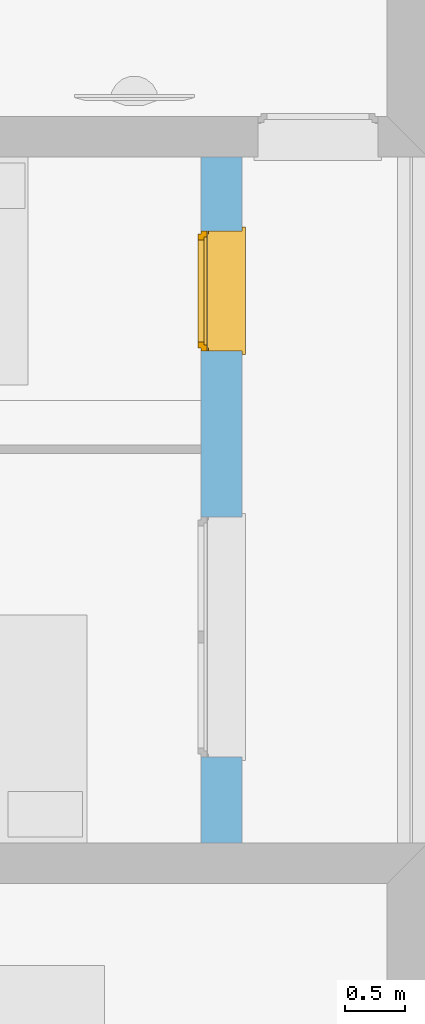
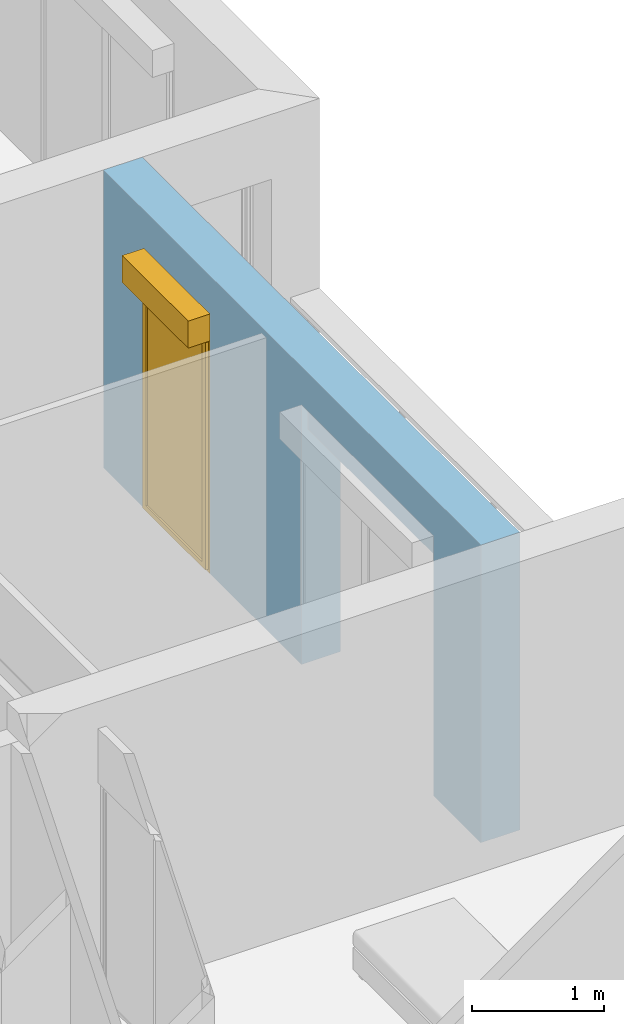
# One storey, part 37 of 164: 1 window, 2 openings, plus 1 element that does not belong to this part.
"""IFC2X3 building model written with IfcOpenShell, lengths in millimetres."""

from ifc_helpers import new_model, entity, si_unit, converted_unit, derived_unit, money_unit, direction, frame, origin_with_axes, place, context, subcontext, project, spatial, polyline, outline, extrude, open_shell, faceted_brep, surface_model, source, transform, mapped, material, layer, layer_set, layer_usage, type_object, element, fill, save


model = new_model("IFC2X3")

# Units and contexts
model_context = context("Model", 3, precision=0.01, world=origin_with_axes(), true_north=direction((0.0, 1.0)))
body_context = subcontext(model_context, "Body", "Model", "MODEL_VIEW")
ifc_project = project(units=[si_unit("LENGTHUNIT", "METRE", prefix="MILLI"), si_unit("AREAUNIT", "SQUARE_METRE"), si_unit("VOLUMEUNIT", "CUBIC_METRE"), converted_unit("PLANEANGLEUNIT", "DEGREE", entity("IfcPlaneAngleMeasure", 0.0174532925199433), si_unit("PLANEANGLEUNIT", "RADIAN"), dimensions=[0, 0, 0, 0, 0, 0, 0]), money_unit("USD"), converted_unit("TIMEUNIT", "Year", entity("IfcTimeMeasure", 31557600.0), si_unit("TIMEUNIT", "SECOND"), dimensions=[0, 0, 1, 0, 0, 0, 0]), si_unit("MASSUNIT", "GRAM", prefix="KILO"), si_unit("THERMODYNAMICTEMPERATUREUNIT", "DEGREE_CELSIUS"), si_unit("LUMINOUSINTENSITYUNIT", "LUMEN"), si_unit("ENERGYUNIT", "JOULE", prefix="MEGA"), derived_unit("THERMALCONDUCTANCEUNIT", [(si_unit("POWERUNIT", "WATT"), 1), (si_unit("LENGTHUNIT", "METRE"), -1), (si_unit("THERMODYNAMICTEMPERATUREUNIT", "KELVIN"), -1)]), derived_unit("SPECIFICHEATCAPACITYUNIT", [(si_unit("ENERGYUNIT", "JOULE"), 1), (si_unit("MASSUNIT", "GRAM", prefix="KILO"), -1), (si_unit("THERMODYNAMICTEMPERATUREUNIT", "KELVIN"), -1)]), derived_unit("MASSDENSITYUNIT", [(si_unit("MASSUNIT", "GRAM", prefix="KILO"), 1), (si_unit("VOLUMEUNIT", "CUBIC_METRE"), -1)])], contexts=[model_context])

# Site, building, storey
site_placement = place(None, origin_with_axes())
site = spatial("IfcSite", under=ifc_project, at=site_placement, Name="Site", CompositionType="ELEMENT")
building_placement = place(site_placement, origin_with_axes())
building = spatial("IfcBuilding", under=site, at=building_placement, Name="Bâtiment", CompositionType="ELEMENT")
storey_placement = place(building_placement, frame((0.0, 0.0, 5750.0), z_axis=(0.0, 0.0, 1.0), x_axis=(1.0, 0.0, 0.0)))
storey = spatial("IfcBuildingStorey", under=building, at=storey_placement, Name="Etage1", CompositionType="ELEMENT", Elevation=5750.0)

# Wall, openings, window
ifc_material_1 = material(Name="Parpaing 312445824")
ifc_layer_1 = layer(ifc_material_1, 180.0, ventilated="UNKNOWN")
ifc_material_2 = material(Name="Isolant styromousse 301821074")
ifc_layer_2 = layer(ifc_material_2, 160.0, ventilated="UNKNOWN")
ifc_layer_set = layer_set([ifc_layer_1, ifc_layer_2], Name="isol int 18+16 0018356637")
ifc_layer_usage = layer_usage(ifc_layer_set, "AXIS2", "POSITIVE", 0.0)
wall_type = type_object("IfcWallType", Name="isol int 18+16 0018356637 340", PredefinedType="NOTDEFINED")
wall_placement = place(storey_placement, frame((2232806.658098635, -646738.4413036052, 0.0), z_axis=(0.0, 0.0, 1.0), x_axis=(0.0, 1.0, 0.0)))
wall = element("IfcWallStandardCase", 1, at=wall_placement, inside=storey, type_object=wall_type, material=ifc_layer_usage, Name="Mur-144", context=body_context, shape_type="SweptSolid", body=[
    extrude(outline(polyline([(0.0, 0.0), (5713.115765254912, 0.0), (5713.115765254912, 340.0000000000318), (0.0, 340.0000000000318), (0.0, 0.0)])), origin_with_axes(), (0.0, 0.0, 1.0), 2750.0),
])
opening_1_placement = place(wall_placement, frame((4599.031209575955, 0.0, 0.0), z_axis=(0.0, 0.0, 1.0), x_axis=(1.0, 0.0, 0.0)))
opening_1 = element("IfcOpeningElement", 2, at=opening_1_placement, cuts=wall, Name="Fen-134", context=body_context, shape_type="Brep", body=[
    faceted_brep([(500.0, 290.0000000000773, 2150.0), (500.0, 280.0000000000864, 2150.0), (500.0, -0.9999999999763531, 2150.0), (500.0, -0.9999999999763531, 0.0), (500.0, 290.0000000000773, 0.0), (500.0, 341.0000000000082, 2150.0), (500.0, 530.0000000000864, 2150.0), (500.0, 530.0000000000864, 2400.0), (500.0, 280.0000000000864, 2400.0), (-500.0, 280.0000000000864, 2150.0), (-500.0, -0.9999999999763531, 2150.0), (-500.0, -0.9999999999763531, 0.0), (-500.0, 290.0000000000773, 0.0), (-500.0, 341.0000000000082, 0.0), (500.0, 341.0000000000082, 0.0), (-500.0, 341.0000000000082, 2150.0), (-500.0, 530.0000000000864, 2150.0), (-500.0, 530.0000000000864, 2400.0), (-500.0, 280.0000000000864, 2400.0), (-500.0, 290.0000000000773, 2150.0)], [[[0, 1, 2, 3, 4]], [[1, 0, 5, 6, 7, 8]], [[1, 9, 10, 2]], [[10, 11, 3, 2]], [[4, 3, 11, 12, 13, 14]], [[5, 0, 4, 14]], [[5, 15, 16, 6]], [[7, 6, 16, 17]], [[8, 7, 17, 18]], [[9, 1, 8, 18]], [[9, 19, 12, 11, 10]], [[19, 15, 13, 12]], [[15, 5, 14, 13]], [[19, 9, 18, 17, 16, 15]]]),
])
opening_2_placement = place(wall_placement, frame((1715.842808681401, 0.0, 0.0), z_axis=(0.0, 0.0, 1.0), x_axis=(1.0, 0.0, 0.0)))
element("IfcOpeningElement", 3, at=opening_2_placement, cuts=wall, Name="Fen-207", context=body_context, shape_type="Brep", body=[
    faceted_brep([(1000.0, 290.0000000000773, 2150.000000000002), (1000.0, 280.0000000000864, 2150.000000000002), (1000.0, -0.9999999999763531, 2150.000000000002), (1000.0, -0.9999999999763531, 0.0), (1000.0, 290.0000000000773, 0.0), (1000.0, 341.0000000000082, 2150.000000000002), (1000.0, 530.0000000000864, 2150.000000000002), (1000.0, 530.0000000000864, 2400.000000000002), (1000.0, 280.0000000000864, 2400.000000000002), (-1000.0, 280.0000000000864, 2150.000000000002), (-1000.0, -0.9999999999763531, 2150.000000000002), (-1000.0, -0.9999999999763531, 0.0), (-1000.0, 290.0000000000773, 0.0), (-1000.0, 341.0000000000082, 0.0), (1000.0, 341.0000000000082, 0.0), (-1000.0, 341.0000000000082, 2150.000000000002), (-1000.0, 530.0000000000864, 2150.000000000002), (-1000.0, 530.0000000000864, 2400.000000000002), (-1000.0, 280.0000000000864, 2400.000000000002), (-1000.0, 290.0000000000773, 2150.000000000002)], [[[0, 1, 2, 3, 4]], [[1, 0, 5, 6, 7, 8]], [[1, 9, 10, 2]], [[10, 11, 3, 2]], [[4, 3, 11, 12, 13, 14]], [[5, 0, 4, 14]], [[5, 15, 16, 6]], [[7, 6, 16, 17]], [[8, 7, 17, 18]], [[9, 1, 8, 18]], [[9, 19, 12, 11, 10]], [[19, 15, 13, 12]], [[15, 5, 14, 13]], [[19, 9, 18, 17, 16, 15]]]),
])
window_style = type_object("IfcWindowStyle", Name="Fenêtre 27", ConstructionType="NOTDEFINED", OperationType="SINGLE_PANEL", ParameterTakesPrecedence=False, Sizeable=False)
shared_shape = source(origin_with_axes(), body_context, "Body", "SurfaceModel", [
    surface_model("IfcShellBasedSurfaceModel", [(500.0, -51.00000000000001, 40.00000000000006), (500.0, -51.00000000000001, 50.00000000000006), (-500.0, -51.00000000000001, 50.0), (-500.0, -51.00000000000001, 40.0), (530.0, -369.9999999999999, 28.96551724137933), (530.0, -339.9999999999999, 30.00324289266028), (500.0, -339.9999999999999, 30.00324289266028), (-500.0, -339.9999999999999, 30.00324289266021), (-530.0, -339.9999999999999, 30.00324289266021), (-530.0, -369.9999999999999, 28.96551724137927), (530.0, -369.9999999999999, 8.96551724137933), (-530.0, -369.9999999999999, 8.965517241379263), (530.0, -359.9999999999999, 18.96551724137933), (-530.0, -359.9999999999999, 18.96551724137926)], [open_shell([[[0, 1, 2, 3]], [[4, 5, 6, 0, 3, 7, 8, 9]], [[10, 4, 9, 11]], [[12, 10, 11, 13]]])]),
    faceted_brep([(-500.0, -59.99999999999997, 2400.0), (-497.0, -59.99999999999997, 2400.0), (-497.0, 190.0, 2400.0), (-500.0, 190.0, 2400.0), (-500.0, -59.99999999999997, 2150.0), (-497.0, -59.99999999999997, 2150.0), (-497.0, 190.0, 2150.0), (-500.0, 190.0, 2150.0)], [[[0, 1, 2, 3]], [[4, 5, 1, 0]], [[1, 5, 6, 2]], [[3, 2, 6, 7]], [[0, 3, 7, 4]], [[7, 6, 5, 4]]]),
    faceted_brep([(497.0, -59.99999999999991, 2400.0), (500.0, -59.99999999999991, 2400.0), (500.0, 190.0000000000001, 2400.0), (497.0, 190.0000000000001, 2400.0), (497.0, -59.99999999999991, 2150.0), (500.0, -59.99999999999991, 2150.0), (500.0, 190.0000000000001, 2150.0), (497.0, 190.0000000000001, 2150.0)], [[[0, 1, 2, 3]], [[4, 5, 1, 0]], [[1, 5, 6, 2]], [[3, 2, 6, 7]], [[0, 3, 7, 4]], [[7, 6, 5, 4]]]),
    faceted_brep([(-497.0, -60.0, 2150.0), (497.0, -59.99999999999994, 2150.0), (497.0, -59.99999999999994, 2400.0), (-497.0, -60.0, 2400.0), (-497.0, -56.99999999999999, 2150.0), (497.0, -56.99999999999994, 2150.0), (497.0, -56.99999999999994, 2397.0), (497.0, 187.0000000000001, 2397.0), (497.0, 187.0000000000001, 2153.0), (497.0, -37.99999999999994, 2153.0), (497.0, -37.99999999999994, 2150.0), (497.0, 190.0000000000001, 2150.0), (497.0, 190.0000000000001, 2400.0), (-497.0, 190.0, 2400.0), (-497.0, 190.0, 2150.0), (-497.0, -37.99999999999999, 2150.0), (-497.0, -37.99999999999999, 2153.0), (-497.0, 187.0, 2153.0), (-497.0, 187.0, 2397.0), (-497.0, -56.99999999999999, 2397.0)], [[[0, 1, 2, 3]], [[4, 5, 1, 0]], [[1, 5, 6, 7, 8, 9, 10, 11, 12, 2]], [[3, 2, 12, 13]], [[0, 3, 13, 14, 15, 16, 17, 18, 19, 4]], [[19, 6, 5, 4]], [[18, 7, 6, 19]], [[17, 8, 7, 18]], [[16, 9, 8, 17]], [[15, 10, 9, 16]], [[14, 11, 10, 15]], [[13, 12, 11, 14]]]),
    faceted_brep([(-494.0, -40.37442957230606, 2256.419644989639), (-494.0, -41.99999999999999, 2275.0), (-494.0, -40.37442957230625, 2293.580355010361), (-494.0, -35.54711042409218, 2311.596155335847), (-494.0, -27.66471820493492, 2328.5), (-494.0, -16.96675541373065, 2343.77827423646), (-494.0, -3.778274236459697, 2356.96675541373), (-494.0, 11.5, 2367.664718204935), (-494.0, 28.40384466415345, 2375.547110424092), (-494.0, 46.41964498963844, 2380.374429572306), (-494.0, 64.99999999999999, 2382.0), (-494.0, 83.58035501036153, 2380.374429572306), (-494.0, 101.5961553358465, 2375.547110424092), (-494.0, 118.5, 2367.664718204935), (-494.0, 133.7782742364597, 2356.96675541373), (-494.0, 146.9667554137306, 2343.77827423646), (-494.0, 157.6647182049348, 2328.5), (-494.0, 165.5471104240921, 2311.596155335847), (-494.0, 170.3744295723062, 2293.580355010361), (-494.0, 171.9999999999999, 2275.0), (-494.0, 170.3744295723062, 2256.419644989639), (-494.0, 165.5471104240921, 2238.403844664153), (-494.0, 157.6647182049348, 2221.5), (-494.0, 146.9667554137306, 2206.22172576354), (-494.0, 133.7782742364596, 2193.033244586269), (-494.0, 118.4999999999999, 2182.335281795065), (-494.0, 101.5961553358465, 2174.452889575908), (-494.0, 83.58035501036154, 2169.625570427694), (-494.0, 65.00000000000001, 2168.0), (-494.0, 46.4196449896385, 2169.625570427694), (-494.0, 28.40384466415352, 2174.452889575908), (-494.0, 11.50000000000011, 2182.335281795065), (-494.0, -3.778274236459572, 2193.033244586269), (-494.0, -16.9667554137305, 2206.22172576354), (-494.0, -27.66471820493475, 2221.5), (-494.0, -35.54711042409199, 2238.403844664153), (494.0, -40.374429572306, 2256.419644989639), (494.0, -41.99999999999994, 2275.0), (494.0, -40.37442957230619, 2293.580355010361), (494.0, -35.54711042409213, 2311.596155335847), (494.0, -27.66471820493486, 2328.5), (494.0, -16.96675541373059, 2343.77827423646), (494.0, -3.778274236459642, 2356.96675541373), (494.0, 11.50000000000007, 2367.664718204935), (494.0, 28.40384466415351, 2375.547110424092), (494.0, 46.41964498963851, 2380.374429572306), (494.0, 65.00000000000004, 2382.0), (494.0, 83.58035501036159, 2380.374429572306), (494.0, 101.5961553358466, 2375.547110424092), (494.0, 118.5, 2367.664718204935), (494.0, 133.7782742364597, 2356.96675541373), (494.0, 146.9667554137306, 2343.77827423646), (494.0, 157.6647182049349, 2328.5), (494.0, 165.5471104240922, 2311.596155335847), (494.0, 170.3744295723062, 2293.580355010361), (494.0, 172.0, 2275.0), (494.0, 170.3744295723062, 2256.419644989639), (494.0, 165.5471104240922, 2238.403844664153), (494.0, 157.6647182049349, 2221.5), (494.0, 146.9667554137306, 2206.22172576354), (494.0, 133.7782742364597, 2193.033244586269), (494.0, 118.5, 2182.335281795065), (494.0, 101.5961553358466, 2174.452889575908), (494.0, 83.5803550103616, 2169.625570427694), (494.0, 65.00000000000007, 2168.0), (494.0, 46.41964498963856, 2169.625570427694), (494.0, 28.40384466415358, 2174.452889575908), (494.0, 11.50000000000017, 2182.335281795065), (494.0, -3.778274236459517, 2193.033244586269), (494.0, -16.96675541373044, 2206.22172576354), (494.0, -27.6647182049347, 2221.5), (494.0, -35.54711042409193, 2238.403844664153)], [[[0, 1, 2, 3, 4, 5, 6, 7, 8, 9, 10, 11, 12, 13, 14, 15, 16, 17, 18, 19, 20, 21, 22, 23, 24, 25, 26, 27, 28, 29, 30, 31, 32, 33, 34, 35]], [[0, 36, 37, 1]], [[1, 37, 38, 2]], [[2, 38, 39, 3]], [[3, 39, 40, 4]], [[4, 40, 41, 5]], [[5, 41, 42, 6]], [[6, 42, 43, 7]], [[7, 43, 44, 8]], [[8, 44, 45, 9]], [[9, 45, 46, 10]], [[10, 46, 47, 11]], [[11, 47, 48, 12]], [[12, 48, 49, 13]], [[13, 49, 50, 14]], [[14, 50, 51, 15]], [[15, 51, 52, 16]], [[16, 52, 53, 17]], [[17, 53, 54, 18]], [[18, 54, 55, 19]], [[19, 55, 56, 20]], [[20, 56, 57, 21]], [[21, 57, 58, 22]], [[22, 58, 59, 23]], [[23, 59, 60, 24]], [[24, 60, 61, 25]], [[25, 61, 62, 26]], [[26, 62, 63, 27]], [[27, 63, 64, 28]], [[28, 64, 65, 29]], [[29, 65, 66, 30]], [[30, 66, 67, 31]], [[31, 67, 68, 32]], [[32, 68, 69, 33]], [[33, 69, 70, 34]], [[34, 70, 71, 35]], [[35, 71, 36, 0]], [[36, 71, 70, 69, 68, 67, 66, 65, 64, 63, 62, 61, 60, 59, 58, 57, 56, 55, 54, 53, 52, 51, 50, 49, 48, 47, 46, 45, 44, 43, 42, 41, 40, 39, 38, 37]]]),
    faceted_brep([(500.0, -34.99999999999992, 30.0), (500.0, -34.99999999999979, 2150.0), (500.0, -59.99999999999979, 2150.0), (500.0, -59.99999999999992, 30.0), (475.0, -34.99999999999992, 30.0), (475.0, -34.99999999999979, 2150.0), (475.0, -37.99999999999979, 2150.0), (497.0, -37.99999999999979, 2150.0), (497.0, -56.99999999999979, 2150.0), (475.0, -56.99999999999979, 2150.0), (475.0, -59.99999999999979, 2150.0), (475.0, -59.99999999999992, 30.0), (475.0, -56.99999999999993, 30.0), (497.0, -56.99999999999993, 30.0), (497.0, -37.99999999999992, 30.0), (475.0, -37.99999999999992, 30.0)], [[[0, 1, 2, 3]], [[4, 5, 1, 0]], [[1, 5, 6, 7, 8, 9, 10, 2]], [[3, 2, 10, 11]], [[0, 3, 11, 12, 13, 14, 15, 4]], [[15, 6, 5, 4]], [[14, 7, 6, 15]], [[13, 8, 7, 14]], [[12, 9, 8, 13]], [[11, 10, 9, 12]]]),
    faceted_brep([(-500.0, -34.99999999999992, 30.0), (-500.0, -59.99999999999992, 30.0), (-500.0, -59.99999999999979, 2150.0), (-500.0, -34.99999999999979, 2150.0), (-475.0, -34.99999999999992, 30.0), (-475.0, -37.99999999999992, 30.0), (-497.0, -37.99999999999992, 30.0), (-497.0, -56.99999999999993, 30.0), (-475.0, -56.99999999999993, 30.0), (-475.0, -59.99999999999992, 30.0), (-475.0, -59.99999999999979, 2150.0), (-475.0, -56.99999999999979, 2150.0), (-497.0, -56.99999999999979, 2150.0), (-497.0, -37.99999999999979, 2150.0), (-475.0, -37.99999999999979, 2150.0), (-475.0, -34.99999999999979, 2150.0)], [[[0, 1, 2, 3]], [[0, 4, 5, 6, 7, 8, 9, 1]], [[1, 9, 10, 2]], [[3, 2, 10, 11, 12, 13, 14, 15]], [[4, 0, 3, 15]], [[5, 4, 15, 14]], [[6, 5, 14, 13]], [[7, 6, 13, 12]], [[8, 7, 12, 11]], [[9, 8, 11, 10]]]),
    faceted_brep([(497.0, -46.66666666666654, 2275.0), (497.0, -46.66666666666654, 2266.666666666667), (-497.0, -46.6666666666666, 2266.666666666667), (-497.0, -46.6666666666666, 2275.0), (497.0, -51.66666666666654, 2275.0), (497.0, -51.66666666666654, 2266.666666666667), (497.0, -49.99999999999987, 2250.0), (497.0, -44.99999999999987, 2250.0), (-497.0, -44.99999999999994, 2250.0), (-497.0, -49.99999999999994, 2250.0), (-497.0, -51.6666666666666, 2266.666666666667), (-497.0, -51.6666666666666, 2275.0)], [[[0, 1, 2, 3]], [[4, 5, 6, 7, 1, 0]], [[2, 1, 7, 8]], [[3, 2, 8, 9, 10, 11]], [[3, 11, 4, 0]], [[10, 5, 4, 11]], [[9, 6, 5, 10]], [[8, 7, 6, 9]]]),
    faceted_brep([(-497.0, -44.99999999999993, 2250.0), (497.0, -44.99999999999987, 2250.0), (497.0, -46.66666666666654, 2233.333333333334), (-497.0, -46.6666666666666, 2233.333333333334), (-497.0, -49.99999999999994, 2250.0), (497.0, -49.99999999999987, 2250.0), (497.0, -51.66666666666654, 2233.333333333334), (497.0, -51.66666666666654, 2216.666666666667), (497.0, -49.99999999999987, 2200.0), (497.0, -44.99999999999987, 2200.0), (497.0, -46.66666666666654, 2216.666666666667), (-497.0, -46.6666666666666, 2216.666666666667), (-497.0, -44.99999999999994, 2200.0), (-497.0, -49.99999999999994, 2200.0), (-497.0, -51.6666666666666, 2216.666666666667), (-497.0, -51.6666666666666, 2233.333333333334)], [[[0, 1, 2, 3]], [[4, 5, 1, 0]], [[1, 5, 6, 7, 8, 9, 10, 2]], [[3, 2, 10, 11]], [[0, 3, 11, 12, 13, 14, 15, 4]], [[15, 6, 5, 4]], [[14, 7, 6, 15]], [[13, 8, 7, 14]], [[12, 9, 8, 13]], [[11, 10, 9, 12]]]),
    faceted_brep([(-497.0, -44.99999999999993, 2200.0), (497.0, -44.99999999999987, 2200.0), (497.0, -46.66666666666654, 2183.333333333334), (-497.0, -46.6666666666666, 2183.333333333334), (-497.0, -49.99999999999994, 2200.0), (497.0, -49.99999999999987, 2200.0), (497.0, -51.66666666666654, 2183.333333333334), (497.0, -51.66666666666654, 2166.666666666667), (497.0, -49.99999999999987, 2150.000000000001), (497.0, -44.99999999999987, 2150.000000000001), (497.0, -46.66666666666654, 2166.666666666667), (-497.0, -46.6666666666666, 2166.666666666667), (-497.0, -44.99999999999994, 2150.000000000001), (-497.0, -49.99999999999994, 2150.000000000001), (-497.0, -51.6666666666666, 2166.666666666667), (-497.0, -51.6666666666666, 2183.333333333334)], [[[0, 1, 2, 3]], [[4, 5, 1, 0]], [[1, 5, 6, 7, 8, 9, 10, 2]], [[3, 2, 10, 11]], [[0, 3, 11, 12, 13, 14, 15, 4]], [[15, 6, 5, 4]], [[14, 7, 6, 15]], [[13, 8, 7, 14]], [[12, 9, 8, 13]], [[11, 10, 9, 12]]]),
    faceted_brep([(-475.0000000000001, 0.0, 2100.0), (-500.0, 0.0, 2100.0), (-500.0, -50.00000000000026, 2100.0), (-450.0, -50.00000000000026, 2100.0), (-450.0, -25.00000000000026, 2100.0), (-475.0000000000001, -25.00000000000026, 2100.0), (-475.0000000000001, 0.0, 50.00000000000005), (-500.0, 0.0, 50.00000000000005), (-500.0, -50.00000000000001, 50.00000000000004), (-450.0, -50.00000000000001, 50.00000000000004), (-450.0, -25.00000000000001, 50.00000000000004), (-475.0000000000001, -25.00000000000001, 50.00000000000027)], [[[0, 1, 2, 3, 4, 5]], [[6, 7, 1, 0]], [[1, 7, 8, 2]], [[2, 8, 9, 3]], [[4, 3, 9, 10]], [[10, 11, 5, 4]], [[5, 11, 6, 0]], [[11, 10, 9, 8, 7, 6]]]),
    faceted_brep([(450.0, -25.00000000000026, 2100.0), (450.0, -50.00000000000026, 2100.0), (500.0, -50.00000000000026, 2100.0), (500.0, 0.0, 2100.0), (475.0000000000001, 0.0, 2100.0), (475.0000000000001, -25.00000000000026, 2100.0), (450.0, -25.00000000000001, 50.00000000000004), (450.0, -50.00000000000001, 50.00000000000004), (500.0, -50.00000000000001, 50.00000000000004), (500.0, 0.0, 50.00000000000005), (475.0000000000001, 0.0, 50.00000000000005), (475.0000000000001, -25.00000000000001, 50.00000000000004)], [[[0, 1, 2, 3, 4, 5]], [[6, 7, 1, 0]], [[8, 2, 1, 7]], [[9, 3, 2, 8]], [[4, 3, 9, 10]], [[10, 11, 5, 4]], [[5, 11, 6, 0]], [[11, 10, 9, 8, 7, 6]]]),
    faceted_brep([(450.0, -25.00000000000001, 50.00000000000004), (450.0, -50.00000000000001, 50.00000000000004), (500.0, -50.00000000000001, 50.00000000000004), (500.0, 0.0, 50.00000000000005), (475.0000000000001, 0.0, 50.00000000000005), (475.0000000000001, -25.00000000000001, 50.00000000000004), (-450.0, -25.00000000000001, 50.00000000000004), (-450.0, -50.00000000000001, 50.00000000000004), (-500.0, -50.00000000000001, 50.00000000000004), (-500.0, -50.0, 0.0), (500.0, -50.0, 0.0), (500.0, 0.0, 0.0), (-475.0000000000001, 0.0, 24.99999999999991), (475.0000000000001, 0.0, 24.99999999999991), (-500.0, 0.0, 0.0), (-500.0, 0.0, 50.00000000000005), (-475.0000000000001, 0.0, 50.00000000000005), (475.0000000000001, -25.0, 24.99999999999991), (-475.0000000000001, -25.0, 24.99999999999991), (-475.0000000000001, -25.00000000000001, 50.00000000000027)], [[[0, 1, 2, 3, 4, 5]], [[6, 7, 1, 0]], [[8, 9, 10, 2, 1, 7]], [[11, 3, 2, 10]], [[12, 13, 4, 3, 11, 14, 15, 16]], [[13, 17, 5, 4]], [[5, 17, 18, 19, 6, 0]], [[19, 16, 15, 8, 7, 6]], [[15, 14, 9, 8]], [[14, 11, 10, 9]], [[12, 18, 17, 13]], [[19, 18, 12, 16]]]),
    faceted_brep([(-475.0000000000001, 0.0, 2100.0), (-500.0, 0.0, 2100.0), (-500.0, 0.0, 2150.0), (500.0, 0.0, 2150.0), (500.0, 0.0, 2100.0), (475.0000000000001, 0.0, 2100.0), (475.0000000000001, 0.0, 2125.0), (-475.0000000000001, 0.0, 2125.0), (-475.0000000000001, -25.00000000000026, 2100.0), (-450.0, -25.00000000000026, 2100.0), (-450.0, -50.00000000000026, 2100.0), (-500.0, -50.00000000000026, 2100.0), (-500.0, -50.00000000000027, 2150.0), (500.0, -50.00000000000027, 2150.0), (500.0, -50.00000000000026, 2100.0), (475.0000000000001, -25.00000000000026, 2100.0), (450.0, -50.00000000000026, 2100.0), (450.0, -25.00000000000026, 2100.0), (475.0000000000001, -25.00000000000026, 2125.0), (-475.0000000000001, -25.00000000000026, 2125.0)], [[[0, 1, 2, 3, 4, 5, 6, 7]], [[8, 9, 10, 11, 1, 0]], [[2, 1, 11, 12]], [[3, 2, 12, 13]], [[4, 3, 13, 14]], [[15, 5, 4, 14, 16, 17]], [[5, 15, 18, 6]], [[6, 18, 19, 7]], [[7, 19, 8, 0]], [[17, 9, 8, 19, 18, 15]], [[17, 16, 10, 9]], [[14, 13, 12, 11, 10, 16]]]),
    faceted_brep([(-425.0000000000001, -25.00000000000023, 2075.0), (-425.0000000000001, 24.99999999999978, 2075.0), (-475.0000000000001, 24.99999999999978, 2075.0), (-475.0000000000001, -25.00000000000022, 2075.0), (-425.0000000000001, -24.99999999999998, 75.00000000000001), (-425.0000000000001, 25.00000000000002, 75.00000000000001), (-475.0000000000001, 25.00000000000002, 75.00000000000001), (-475.0000000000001, -24.99999999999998, 75.00000000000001)], [[[0, 1, 2, 3]], [[4, 5, 1, 0]], [[1, 5, 6, 2]], [[3, 2, 6, 7]], [[0, 3, 7, 4]], [[7, 6, 5, 4]]]),
    faceted_brep([(425.0000000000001, -25.00000000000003, 75.00000000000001), (425.0000000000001, 24.99999999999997, 75.00000000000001), (475.0000000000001, 24.99999999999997, 75.00000000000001), (475.0000000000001, -25.00000000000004, 75.00000000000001), (425.0000000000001, -25.00000000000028, 2075.0), (425.0000000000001, 24.99999999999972, 2075.0), (475.0000000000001, 24.99999999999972, 2075.0), (475.0000000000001, -25.00000000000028, 2075.0)], [[[0, 1, 2, 3]], [[4, 5, 1, 0]], [[1, 5, 6, 2]], [[3, 2, 6, 7]], [[0, 3, 7, 4]], [[7, 6, 5, 4]]]),
    faceted_brep([(475.0000000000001, -25.00000000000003, 25.0), (475.0000000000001, 24.99999999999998, 25.00000000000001), (475.0000000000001, 24.99999999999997, 75.00000000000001), (475.0000000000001, -25.00000000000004, 75.00000000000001), (-475.0000000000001, -24.99999999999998, 25.0), (-475.0000000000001, 25.00000000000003, 25.00000000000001), (-475.0000000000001, 25.00000000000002, 75.00000000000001), (-425.0000000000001, 25.00000000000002, 75.00000000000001), (425.0000000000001, 24.99999999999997, 75.00000000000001), (425.0000000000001, -25.00000000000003, 75.00000000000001), (-425.0000000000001, -24.99999999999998, 75.00000000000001), (-475.0000000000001, -24.99999999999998, 75.00000000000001)], [[[0, 1, 2, 3]], [[4, 5, 1, 0]], [[1, 5, 6, 7, 8, 2]], [[3, 2, 8, 9]], [[0, 3, 9, 10, 11, 4]], [[11, 6, 5, 4]], [[10, 7, 6, 11]], [[9, 8, 7, 10]]]),
    faceted_brep([(-475.0000000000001, -25.00000000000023, 2125.0), (-475.0000000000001, 24.99999999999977, 2125.0), (-475.0000000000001, 24.99999999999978, 2075.0), (-475.0000000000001, -25.00000000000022, 2075.0), (475.0000000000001, -25.00000000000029, 2125.0), (475.0000000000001, 24.99999999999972, 2125.0), (475.0000000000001, 24.99999999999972, 2075.0), (425.0000000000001, 24.99999999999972, 2075.0), (-425.0000000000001, 24.99999999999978, 2075.0), (-425.0000000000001, -25.00000000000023, 2075.0), (425.0000000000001, -25.00000000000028, 2075.0), (475.0000000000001, -25.00000000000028, 2075.0)], [[[0, 1, 2, 3]], [[4, 5, 1, 0]], [[1, 5, 6, 7, 8, 2]], [[3, 2, 8, 9]], [[0, 3, 9, 10, 11, 4]], [[11, 6, 5, 4]], [[10, 7, 6, 11]], [[9, 8, 7, 10]]]),
    surface_model("IfcShellBasedSurfaceModel", [(-425.0000000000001, -10.00000000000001, 75.00000000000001), (425.0000000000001, -10.00000000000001, 75.00000000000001), (425.0000000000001, -10.00000000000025, 2075.0), (-425.0000000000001, -10.00000000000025, 2075.0)], [open_shell([[[0, 1, 2, 3]]])]),
    surface_model("IfcShellBasedSurfaceModel", [(-425.0000000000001, 9.999999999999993, 75.00000000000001), (-425.0000000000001, 9.99999999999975, 2075.0), (425.0000000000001, 9.99999999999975, 2075.0), (425.0000000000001, 9.999999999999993, 75.00000000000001)], [open_shell([[[0, 1, 2, 3]]])]),
])
window_placement = place(opening_1_placement, frame((-500.0000000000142, 0.0, 0.0), z_axis=(0.0, 0.0, 1.0), x_axis=(1.0, 0.0, 0.0)))
window = element("IfcWindow", 4, at=window_placement, inside=storey, type_object=window_style, Name="Fen-134", OverallHeight=2150.0, OverallWidth=1000.0, context=body_context, shape_type="MappedRepresentation", body=[
    mapped(shared_shape, transform((500.0, 340.0000000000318, 0.0))),
])
fill(opening_1, window)

save(model, "model.ifc")
